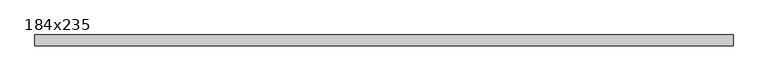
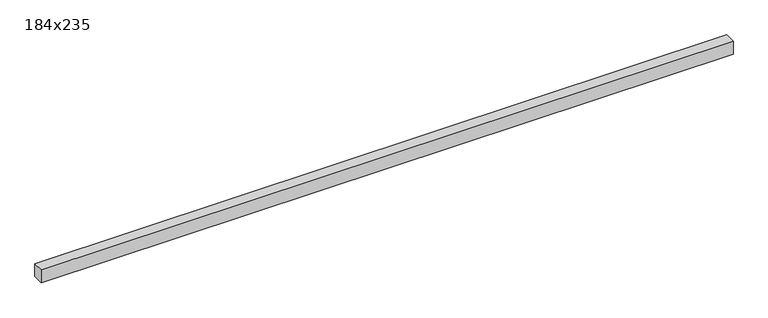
"""IFC4 building model written with IfcOpenShell, lengths in millimetres: beam geometry, Poutre - Bois d'oeuvre : 184x235."""

from ifc_helpers import new_model, si_unit, frame, origin, place, context, project, spatial, polyline, outline, extrude, source, transform, mapped, element, save


def beam_184x235_b0d9afbd(model_context):
    return source(origin(), model_context, "Body", "SweptSolid", [
        extrude(outline(polyline([(6109.5, 95.25), (6109.5, -95.25), (-6109.5, -95.25), (-6109.5, 95.25), (6109.5, 95.25)])), frame((0.0, 0.0, -120.65), z_axis=(0.0, 0.0, 1.0), x_axis=(1.0, 0.0, 0.0)), (0.0, 0.0, 1.0), 241.3),
    ])


if __name__ == "__main__":
    model = new_model("IFC4")
    model_context = context("Model", 3, world=origin())
    ifc_project = project(units=[si_unit("LENGTHUNIT", "METRE", prefix="MILLI")], contexts=[model_context])
    site = spatial("IfcSite", under=ifc_project)
    building = spatial("IfcBuilding", under=site)
    placement = place(None, origin())
    beam_184x235_shape = beam_184x235_b0d9afbd(model_context)
    element("IfcBeam", 1, ObjectType="Poutre - Bois d'oeuvre : 184x235", at=placement, inside=building, context=model_context, shape_type="MappedRepresentation", body=[
        mapped(beam_184x235_shape, transform((0.0, 0.0, 0.0), x_axis=(1.0, 0.0, 0.0), y_axis=(0.0, 1.0, 0.0), z_axis=(0.0, 0.0, 1.0))),
    ])
    save(model, "model.ifc")
